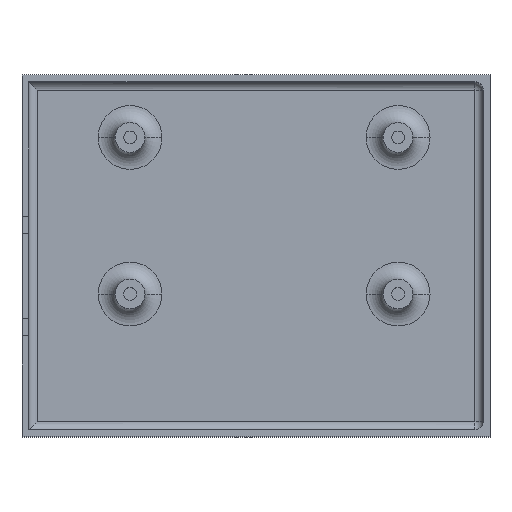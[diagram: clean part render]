
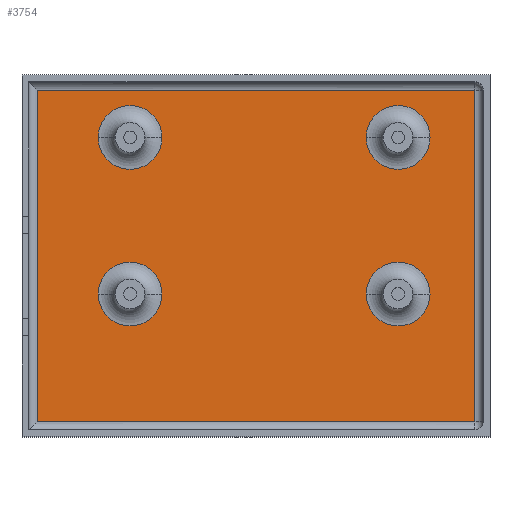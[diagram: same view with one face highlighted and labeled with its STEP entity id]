
A CAD part, top view. The second image highlights one B-rep face of the part: STEP entity #3754.
In plain terms, the highlighted planar face has unit normal (0, 0, 1).
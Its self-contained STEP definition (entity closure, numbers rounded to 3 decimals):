
#948=CARTESIAN_POINT('Axis2P3D Location',(0.,0.,2.8)) ;
#2923=CARTESIAN_POINT('Vertex',(51.4,-38.9,2.8)) ;
#2946=CARTESIAN_POINT('Vertex',(51.4,38.9,2.8)) ;
#2949=CARTESIAN_POINT('Line Origine',(51.4,0.,2.8)) ;
#2982=CARTESIAN_POINT('Line Origine',(-51.4,0.,2.8)) ;
#2986=CARTESIAN_POINT('Vertex',(-51.4,38.9,2.8)) ;
#2988=CARTESIAN_POINT('Vertex',(-51.4,-38.9,2.8)) ;
#3025=CARTESIAN_POINT('Line Origine',(0.,38.9,2.8)) ;
#3042=CARTESIAN_POINT('Line Origine',(0.,-38.9,2.8)) ;
#3454=CARTESIAN_POINT('Vertex',(-37.1,-8.9,2.8)) ;
#3457=CARTESIAN_POINT('Axis2P3D Location',(-29.6,-8.9,2.8)) ;
#3461=CARTESIAN_POINT('Vertex',(-22.1,-8.9,2.8)) ;
#3481=CARTESIAN_POINT('Axis2P3D Location',(-29.6,-8.9,2.8)) ;
#3545=CARTESIAN_POINT('Vertex',(-37.1,27.9,2.8)) ;
#3548=CARTESIAN_POINT('Axis2P3D Location',(-29.6,27.9,2.8)) ;
#3552=CARTESIAN_POINT('Vertex',(-22.1,27.9,2.8)) ;
#3572=CARTESIAN_POINT('Axis2P3D Location',(-29.6,27.9,2.8)) ;
#3636=CARTESIAN_POINT('Vertex',(25.9,27.9,2.8)) ;
#3639=CARTESIAN_POINT('Axis2P3D Location',(33.4,27.9,2.8)) ;
#3643=CARTESIAN_POINT('Vertex',(40.9,27.9,2.8)) ;
#3663=CARTESIAN_POINT('Axis2P3D Location',(33.4,27.9,2.8)) ;
#3724=CARTESIAN_POINT('Axis2P3D Location',(33.4,-8.9,2.8)) ;
#3728=CARTESIAN_POINT('Vertex',(25.9,-8.9,2.8)) ;
#3730=CARTESIAN_POINT('Vertex',(40.9,-8.9,2.8)) ;
#3733=CARTESIAN_POINT('Axis2P3D Location',(33.4,-8.9,2.8)) ;
#949=DIRECTION('Axis2P3D Direction',(0.,0.,1.)) ;
#950=DIRECTION('Axis2P3D XDirection',(1.,0.,0.)) ;
#2950=DIRECTION('Vector Direction',(0.,-1.,0.)) ;
#2983=DIRECTION('Vector Direction',(0.,1.,0.)) ;
#3026=DIRECTION('Vector Direction',(1.,0.,0.)) ;
#3043=DIRECTION('Vector Direction',(-1.,0.,0.)) ;
#3458=DIRECTION('Axis2P3D Direction',(0.,-0.,1.)) ;
#3482=DIRECTION('Axis2P3D Direction',(-0.,0.,1.)) ;
#3549=DIRECTION('Axis2P3D Direction',(0.,-0.,1.)) ;
#3573=DIRECTION('Axis2P3D Direction',(-0.,0.,1.)) ;
#3640=DIRECTION('Axis2P3D Direction',(0.,-0.,1.)) ;
#3664=DIRECTION('Axis2P3D Direction',(-0.,0.,1.)) ;
#3725=DIRECTION('Axis2P3D Direction',(0.,0.,1.)) ;
#3734=DIRECTION('Axis2P3D Direction',(0.,0.,1.)) ;
#951=AXIS2_PLACEMENT_3D('Plane Axis2P3D',#948,#949,#950) ;
#3459=AXIS2_PLACEMENT_3D('Circle Axis2P3D',#3457,#3458,$) ;
#3483=AXIS2_PLACEMENT_3D('Circle Axis2P3D',#3481,#3482,$) ;
#3550=AXIS2_PLACEMENT_3D('Circle Axis2P3D',#3548,#3549,$) ;
#3574=AXIS2_PLACEMENT_3D('Circle Axis2P3D',#3572,#3573,$) ;
#3641=AXIS2_PLACEMENT_3D('Circle Axis2P3D',#3639,#3640,$) ;
#3665=AXIS2_PLACEMENT_3D('Circle Axis2P3D',#3663,#3664,$) ;
#3726=AXIS2_PLACEMENT_3D('Circle Axis2P3D',#3724,#3725,$) ;
#3735=AXIS2_PLACEMENT_3D('Circle Axis2P3D',#3733,#3734,$) ;
#3719=ORIENTED_EDGE('',*,*,#3046,.T.) ;
#3720=ORIENTED_EDGE('',*,*,#2953,.T.) ;
#3721=ORIENTED_EDGE('',*,*,#3029,.T.) ;
#3722=ORIENTED_EDGE('',*,*,#2990,.T.) ;
#3739=ORIENTED_EDGE('',*,*,#3732,.T.) ;
#3740=ORIENTED_EDGE('',*,*,#3737,.T.) ;
#3743=ORIENTED_EDGE('',*,*,#3667,.T.) ;
#3744=ORIENTED_EDGE('',*,*,#3645,.T.) ;
#3747=ORIENTED_EDGE('',*,*,#3576,.T.) ;
#3748=ORIENTED_EDGE('',*,*,#3554,.T.) ;
#3751=ORIENTED_EDGE('',*,*,#3485,.T.) ;
#3752=ORIENTED_EDGE('',*,*,#3463,.T.) ;
#3741=FACE_BOUND('',#3738,.T.) ;
#3745=FACE_BOUND('',#3742,.T.) ;
#3749=FACE_BOUND('',#3746,.T.) ;
#3753=FACE_BOUND('',#3750,.T.) ;
#2951=VECTOR('Line Direction',#2950,1.) ;
#2984=VECTOR('Line Direction',#2983,1.) ;
#3027=VECTOR('Line Direction',#3026,1.) ;
#3044=VECTOR('Line Direction',#3043,1.) ;
#3754=ADVANCED_FACE('Lower Part',(#3723,#3741,#3745,#3749,#3753),#952,.T.) ;
#3460=CIRCLE('generated circle',#3459,7.5) ;
#3484=CIRCLE('generated circle',#3483,7.5) ;
#3551=CIRCLE('generated circle',#3550,7.5) ;
#3575=CIRCLE('generated circle',#3574,7.5) ;
#3642=CIRCLE('generated circle',#3641,7.5) ;
#3666=CIRCLE('generated circle',#3665,7.5) ;
#3727=CIRCLE('generated circle',#3726,7.5) ;
#3736=CIRCLE('generated circle',#3735,7.5) ;
#2953=EDGE_CURVE('',#2924,#2947,#2952,.F.) ;
#2990=EDGE_CURVE('',#2987,#2989,#2985,.F.) ;
#3029=EDGE_CURVE('',#2947,#2987,#3028,.F.) ;
#3046=EDGE_CURVE('',#2989,#2924,#3045,.F.) ;
#3463=EDGE_CURVE('',#3462,#3455,#3460,.F.) ;
#3485=EDGE_CURVE('',#3455,#3462,#3484,.F.) ;
#3554=EDGE_CURVE('',#3553,#3546,#3551,.F.) ;
#3576=EDGE_CURVE('',#3546,#3553,#3575,.F.) ;
#3645=EDGE_CURVE('',#3644,#3637,#3642,.F.) ;
#3667=EDGE_CURVE('',#3637,#3644,#3666,.F.) ;
#3732=EDGE_CURVE('',#3729,#3731,#3727,.F.) ;
#3737=EDGE_CURVE('',#3731,#3729,#3736,.F.) ;
#3718=EDGE_LOOP('',(#3719,#3720,#3721,#3722)) ;
#3738=EDGE_LOOP('',(#3739,#3740)) ;
#3742=EDGE_LOOP('',(#3743,#3744)) ;
#3746=EDGE_LOOP('',(#3747,#3748)) ;
#3750=EDGE_LOOP('',(#3751,#3752)) ;
#3723=FACE_OUTER_BOUND('',#3718,.T.) ;
#2952=LINE('Line',#2949,#2951) ;
#2985=LINE('Line',#2982,#2984) ;
#3028=LINE('Line',#3025,#3027) ;
#3045=LINE('Line',#3042,#3044) ;
#952=PLANE('',#951) ;
#2924=VERTEX_POINT('',#2923) ;
#2947=VERTEX_POINT('',#2946) ;
#2987=VERTEX_POINT('',#2986) ;
#2989=VERTEX_POINT('',#2988) ;
#3455=VERTEX_POINT('',#3454) ;
#3462=VERTEX_POINT('',#3461) ;
#3546=VERTEX_POINT('',#3545) ;
#3553=VERTEX_POINT('',#3552) ;
#3637=VERTEX_POINT('',#3636) ;
#3644=VERTEX_POINT('',#3643) ;
#3729=VERTEX_POINT('',#3728) ;
#3731=VERTEX_POINT('',#3730) ;
